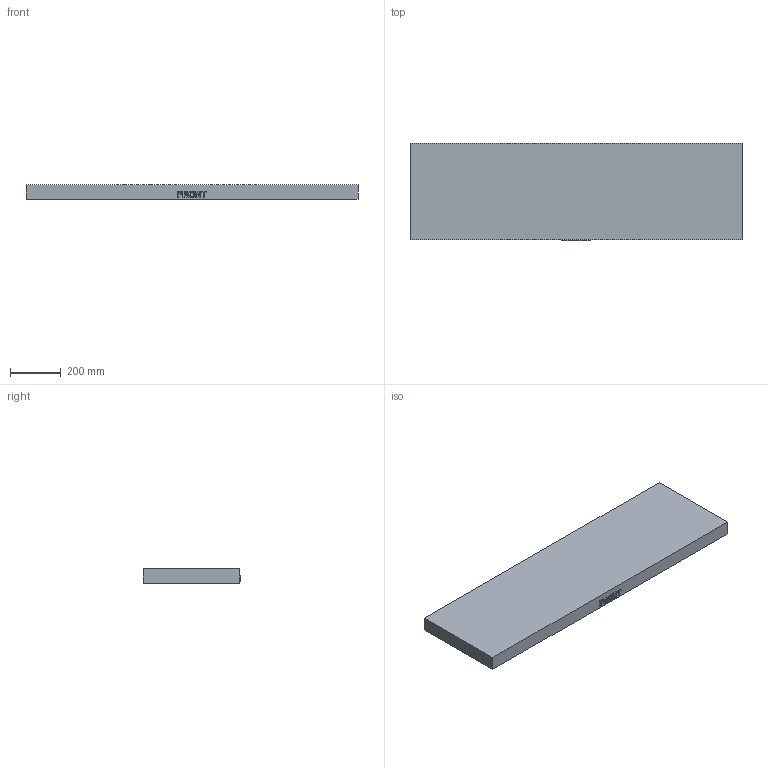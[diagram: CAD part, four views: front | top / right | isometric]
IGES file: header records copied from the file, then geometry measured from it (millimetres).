
Start section: Comment
Global section: file name: 3300-lid_internal_tub.igs; native system:  By UGS Corp.; preprocessor: XPlus GENERIC/IGES 3.0; author: Author; organization: Title; date: 20100517.093036; units: millimetre
Bounding box: 1308.1 x 384.18 x 57.15 mm (x, y, z)
Surface area: 1333819.3 mm2 (no closed solid volume)
Topology: 0 solids, 0 shells, 519 faces, 2683 edges, 2639 vertices
Faces by surface type: bspline 519
